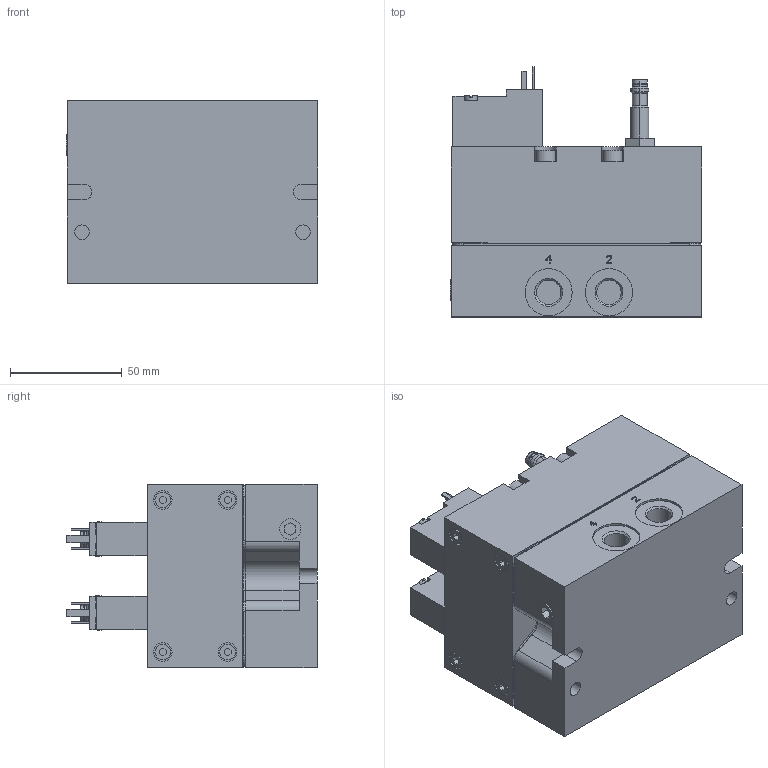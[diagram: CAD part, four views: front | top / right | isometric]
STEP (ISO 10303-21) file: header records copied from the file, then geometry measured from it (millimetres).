
FILE_DESCRIPTION((''),'2;1');
FILE_NAME('R412027215','2024-06-18T10:01:46',('GND7HC'),(''),'CREO PARAMETRIC BY PTC INC, 2023092','CREO PARAMETRIC BY PTC INC, 2023092','');
FILE_SCHEMA(('CONFIG_CONTROL_DESIGN','SHAPE_APPEARANCE_LAYERS_GROUPS'));
Length unit declared in the file: millimetre
Products named in the file (1): R412027215
Bounding box: 112.5 x 111.89 x 82 mm (x, y, z)
Volume: 704014.3 mm3; surface area: 68018.2 mm2
Topology: 1 solids, 1 shells, 652 faces, 1656 edges, 1088 vertices
Faces by surface type: plane 482, cylinder 144, cone 26
Entity records: 26402 total; most frequent: CARTESIAN_POINT 3396, ORIENTED_EDGE 3312, DIRECTION 3308, PRESENTATION_STYLE_ASSIGNMENT 1820, STYLED_ITEM 1678, CURVE_STYLE 1656, EDGE_CURVE 1656, VECTOR 1308
